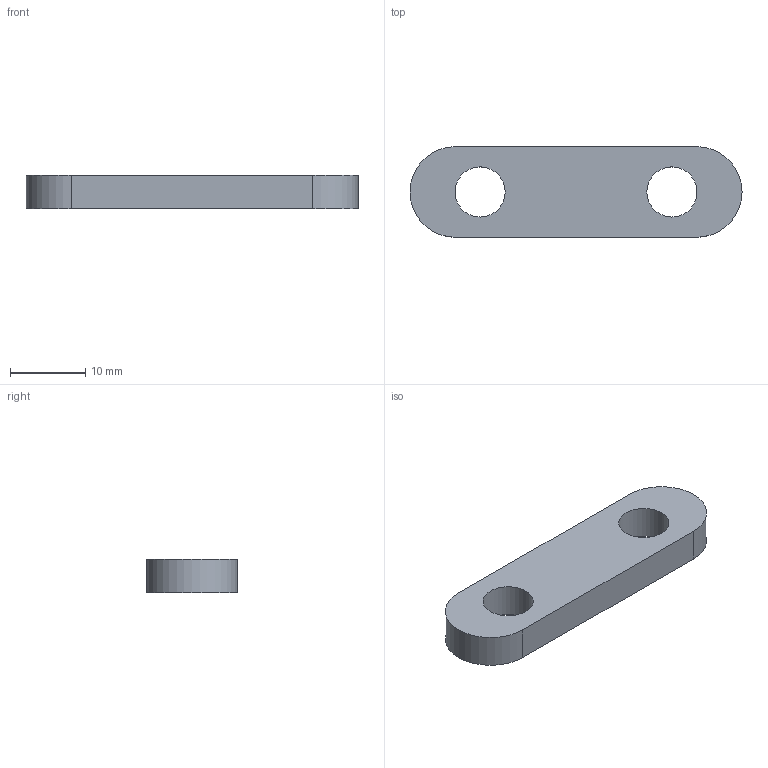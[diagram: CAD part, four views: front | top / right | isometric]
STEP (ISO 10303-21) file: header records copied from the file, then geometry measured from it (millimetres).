
FILE_DESCRIPTION( ( 'Unknown' ), '1' );
FILE_NAME( 'X:/Daten ( aktueller Bestand )/Projekte und Zeichnungen/Solid Edge/STP-Dateien/CF-Teile/7054.stp', 'Unknown', ( 'Unknown' ), ( 'Unknown' ), 'PSStep 14.0', 'Unknown', ' ' );
FILE_SCHEMA( ( 'AUTOMOTIVE_DESIGN { 1 0 10303 214 1 1 1 1 }' ) );
Length unit declared in the file: millimetre
Products named in the file (1): 1
Bounding box: 44 x 12 x 4.5 mm (x, y, z)
Volume: 1924.6 mm3; surface area: 1501 mm2
Topology: 1 solids, 1 shells, 8 faces, 20 edges, 14 vertices
Faces by surface type: cylinder 4, plane 4
Full cylindrical faces by diameter (mm): 6.647 x2
Entity records: 308 total; most frequent: DIRECTION 42, CARTESIAN_POINT 37, ORIENTED_EDGE 32, AXIS2_PLACEMENT_3D 17, EDGE_CURVE 16, EDGE_LOOP 14, VERTEX_POINT 12, FACE_OUTER_BOUND 10
